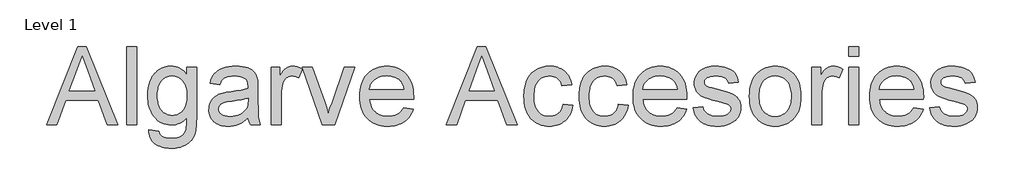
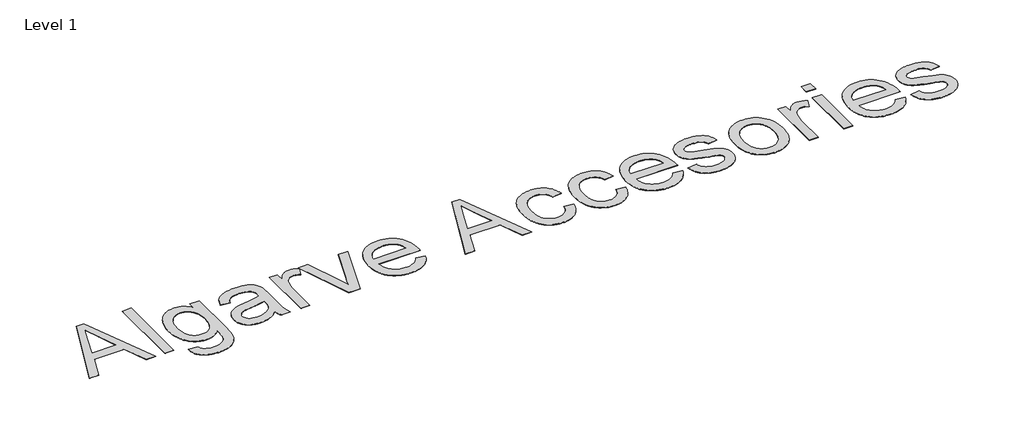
# One storey, part 47 of 47: 1 proxy.
"""IFC4 building model written with IfcOpenShell, lengths in millimetres."""

from ifc_helpers import new_model, si_unit, origin, origin_with_axes, place, context, project, spatial, polyline, outline, extrude, element, save

model = new_model("IFC4")

# Units and contexts
model_context = context("Model", 3, world=origin())
ifc_project = project(units=[si_unit("LENGTHUNIT", "METRE", prefix="MILLI")], contexts=[model_context])

# Site, building, storey
site = spatial("IfcSite", under=ifc_project)
building = spatial("IfcBuilding", under=site)
storey = spatial("IfcBuildingStorey", under=building, Name="Level 1", Elevation=0.0)

# Proxy
placement = place(None, origin())
element("IfcBuildingElementProxy", 1, Name="2500 mm Arial", ObjectType="2500 mm Arial", at=placement, inside=storey, context=model_context, shape_type="SweptSolid", body=[
    extrude(outline(polyline([(173410.7817272, 77108.8344652), (174413.2601641, 79620.2422189), (174680.5877473, 79620.2422189), (175683.0661841, 77108.8344652), (175351.3592518, 77108.8344652), (175063.7981589, 77893.6493882), (174029.4366158, 77893.6493882), (173742.4886596, 77108.8344652), (173410.7817272, 77108.8344652)]), holes=[polyline([(174144.7063076, 78207.5753575), (174949.1416037, 78207.5753575), (174722.8941767, 78825.0039727), (174546.9239557, 79306.3162497), (174390.5741077, 78878.9599987), (174144.7063076, 78207.5753575)])]), origin_with_axes(), (0.0, 0.0, 1.0), 5.0),
    extrude(outline(polyline([(175979.2111902, 77108.8344652), (175979.2111902, 79620.2422189), (176293.1371594, 79620.2422189), (176293.1371594, 77108.8344652), (175979.2111902, 77108.8344652)])), origin_with_axes(), (0.0, 0.0, 1.0), 5.0),
    extrude(outline(polyline([(176685.544621, 76951.8714806), (176999.4705902, 76912.6307344), (177012.7296704, 76859.7476976), (177034.1128114, 76814.5288691), (177063.6200131, 76776.9742487), (177101.2512755, 76747.0838366), (177162.1434099, 76716.5036458), (177233.2289413, 76694.6606523), (177314.5078696, 76681.5548562), (177405.9801949, 76677.1862575), (177504.0054182, 76682.1296718), (177590.2277608, 76696.9599148), (177628.9128518, 76708.082597), (177664.6472227, 76721.6769863), (177697.4308734, 76737.7430828), (177727.263804, 76756.2808865), (177779.38042, 76799.8135893), (177822.2999861, 76851.3170686), (177856.0225023, 76910.7913245), (177880.5479686, 76978.2363569), (177890.6264025, 77033.7635456), (177897.5625109, 77113.279706), (177901.356294, 77216.7848382), (177902.0077517, 77344.2789421), (177851.2898537, 77289.0966428), (177797.5445935, 77241.2719835), (177740.771971, 77200.804964), (177680.9719863, 77167.6955844), (177618.1446393, 77141.9438448), (177552.28993, 77123.549745), (177483.4078585, 77112.5132852), (177411.4984248, 77108.8344652), (177322.8666467, 77113.1168416), (177239.3794684, 77125.9639706), (177161.0368899, 77147.3758524), (177087.8389111, 77177.3524868), (177019.7855321, 77215.893874), (176956.8767529, 77263.0000138), (176899.1125735, 77318.6709064), (176846.4929939, 77382.9065516), (176799.5736691, 77453.1298595), (176758.9102543, 77526.7637401), (176724.5027494, 77603.8081934), (176696.3511546, 77684.2632193), (176674.4554697, 77768.1288179), (176658.8156948, 77855.4049892), (176649.4318298, 77946.0917331), (176646.3038748, 78040.1890497), (176651.9179073, 78169.465082), (176668.7600049, 78293.6444159), (176696.8301676, 78412.7270513), (176736.1283953, 78526.7129883), (176759.8395395, 78580.8462491), (176786.0607119, 78631.8084437), (176814.7919126, 78679.5995721), (176846.0331414, 78724.2196344), (176879.7843984, 78765.6686306), (176916.0456836, 78803.9465606), (176954.816997, 78839.0534244), (176996.0983386, 78870.9892221), (177039.5687696, 78899.4425952), (177084.9073515, 78924.1021852), (177132.114084, 78944.9679921), (177181.1889674, 78962.0400159), (177232.1320015, 78975.3182567), (177284.9431863, 78984.8027144), (177339.6225219, 78990.493389), (177396.1700083, 78992.3902805), (177471.2696687, 78988.0983239), (177542.977917, 78975.2224541), (177611.2947532, 78953.762671), (177676.2201771, 78923.7189747), (177737.754189, 78885.0913652), (177795.8967887, 78837.8798425), (177850.6479763, 78782.0844066), (177902.0077517, 78717.7050574), (177902.0077517, 78953.1495344), (178215.9337209, 78953.1495344), (178215.9337209, 77360.8336319), (178210.5687751, 77161.3151311), (178203.8625929, 77073.3252304), (178194.4739379, 76993.181563), (178182.4028099, 76920.8841287), (178167.649209, 76856.4329276), (178150.2131353, 76799.8279596), (178130.0945887, 76751.0692249), (178107.0684331, 76707.4071886), (178080.9095324, 76666.0923161), (178051.6178865, 76627.1246074), (178019.1934956, 76590.5040624), (177983.6363595, 76556.2306812), (177944.9464783, 76524.3044638), (177903.123852, 76494.7254102), (177858.1684806, 76467.4935203), (177810.30071, 76443.0638565), (177759.7408864, 76421.8914813), (177706.4890095, 76403.9763945), (177650.5450796, 76389.3185963), (177591.9090965, 76377.9180866), (177530.5810602, 76369.7748653), (177466.5609708, 76364.8889326), (177399.8488283, 76363.2602883), (177321.0080762, 76365.5547606), (177246.0473296, 76372.4381777), (177174.9665883, 76383.9105394), (177107.7658525, 76399.9718457), (177044.4451221, 76420.6220968), (176985.0043971, 76445.8612925), (176929.4436776, 76475.689433), (176877.7629634, 76510.1065181), (176831.2364293, 76549.1317083), (176791.1382499, 76592.7841644), (176757.4684251, 76641.0638861), (176730.226955, 76693.9708736), (176709.4138395, 76751.5051267), (176695.0290787, 76813.6666456), (176687.0726725, 76880.4554303), (176685.544621, 76951.8714806)]), holes=[polyline([(176960.229844, 78061.6488327), (176962.3231309, 77981.2273377), (176968.6029915, 77906.4294555), (176979.0694259, 77837.255186), (176993.722434, 77773.7045294), (177012.5620159, 77715.7774856), (177035.5881715, 77663.4740545), (177062.8009008, 77616.7942362), (177094.2002039, 77575.7380307), (177128.7609929, 77539.8839066), (177165.45818, 77508.8103324), (177204.2917651, 77482.517308), (177245.2617482, 77461.0048335), (177288.3681294, 77444.2729089), (177333.6109086, 77432.3215342), (177380.9900859, 77425.1507094), (177430.5056612, 77422.7604344), (177479.4751617, 77425.136339), (177526.4423878, 77432.2640526), (177571.4073394, 77444.1435754), (177614.3700167, 77460.7749073), (177655.3304196, 77482.1580482), (177694.2885481, 77508.2929983), (177731.2444021, 77539.1797575), (177766.1979818, 77574.8183258), (177798.0283966, 77615.5440123), (177825.6147561, 77661.6921261), (177848.9570603, 77713.2626672), (177868.0553092, 77770.2556357), (177882.9095028, 77832.6710315), (177893.5196411, 77900.5088546), (177899.885724, 77973.7691051), (177902.0077517, 78052.4517828), (177899.8234523, 78127.6328755), (177893.2705543, 78198.0525787), (177882.3490576, 78263.7108926), (177867.0589621, 78324.6078172), (177847.400268, 78380.7433524), (177823.3729752, 78432.1174982), (177794.9770837, 78478.7302546), (177762.2125935, 78520.5816217), (177726.3728398, 78557.5853771), (177688.7511576, 78589.6552984), (177649.347547, 78616.7913857), (177608.162008, 78638.9936389), (177565.1945406, 78656.2620581), (177520.4451448, 78668.5966432), (177473.9138206, 78675.9973943), (177425.6005679, 78678.4643113), (177378.0681065, 78676.0357153), (177332.3463143, 78668.7499274), (177288.4351912, 78656.6069474), (177246.3347374, 78639.6067755), (177206.0449527, 78617.7494117), (177167.5658373, 78591.0348559), (177130.897391, 78559.4631081), (177096.0396139, 78523.0341683), (177064.2091991, 78481.8246787), (177036.6228396, 78435.9112812), (177013.2805354, 78385.293976), (176994.1822865, 78329.9727629), (176979.3280929, 78269.9476421), (176968.7179547, 78205.2186134), (176962.3518717, 78135.785677), (176960.229844, 78061.6488327)])]), origin_with_axes(), (0.0, 0.0, 1.0), 5.0),
    extrude(outline(polyline([(179864.0450593, 77344.2789421), (179789.6064368, 77274.4196841), (179714.0565042, 77215.673528), (179637.3952613, 77168.0404738), (179559.6227083, 77131.5205216), (179479.8574611, 77104.4275455), (179397.2181358, 77085.0754197), (179311.7047325, 77073.4641442), (179223.317251, 77069.593719), (179151.2784838, 77071.9217223), (179083.5412534, 77078.9057321), (179020.1055599, 77090.5457483), (178960.9714032, 77106.8417711), (178906.1387834, 77127.7938003), (178855.6077005, 77153.4018361), (178809.3781545, 77183.6658783), (178767.4501453, 77218.5859271), (178730.1589822, 77257.1273142), (178697.8399741, 77298.2553717), (178670.4931211, 77341.9700994), (178648.1184232, 77388.2714974), (178630.7158803, 77437.1595656), (178618.2854926, 77488.6343042), (178610.82726, 77542.695713), (178608.3411824, 77599.3437921), (178612.0966445, 77665.9074406), (178623.3630306, 77729.4820479), (178642.1403407, 77790.067614), (178668.428575, 77847.6641388), (178700.8290153, 77901.0070281), (178737.9429436, 77948.8316875), (178779.7703601, 77991.138117), (178826.3112646, 78027.9263165), (178876.7225942, 78059.8860648), (178930.1612861, 78087.7071407), (178986.6273403, 78111.3895441), (179046.1207567, 78130.9332751), (179159.091186, 78154.998889), (179317.7402965, 78178.1447978), (179490.4149079, 78201.9038434), (179638.7173372, 78227.8088672), (179762.6475844, 78255.8598693), (179862.2056493, 78286.0568498), (179864.0450593, 78355.9544289), (179858.6417925, 78432.0600166), (179851.887709, 78465.5717671), (179842.4319921, 78496.0561553), (179830.2746418, 78523.5131813), (179815.4156581, 78547.9428451), (179797.8550409, 78569.3451466), (179777.5927904, 78587.7200858), (179746.6868707, 78608.9882637), (179712.2170942, 78627.4206845), (179674.1834608, 78643.0173482), (179632.5859707, 78655.7782549), (179587.4246237, 78665.7034046), (179538.6994198, 78672.7927972), (179430.5574416, 78678.4643113), (179330.0030296, 78674.6896887), (179243.5507608, 78663.3658211), (179171.200635, 78644.4927083), (179140.3138759, 78632.225185), (179112.9526525, 78618.0703504), (179088.1876796, 78601.5108705), (179065.0896721, 78582.0294112), (179023.8945528, 78534.3005544), (178989.3672947, 78474.8837801), (178961.5078978, 78403.7790882), (178647.5819286, 78443.0198344), (178671.4750977, 78533.4574915), (178702.0744491, 78614.6980988), (178739.3799827, 78686.7416562), (178783.3916985, 78749.5881637), (178836.006488, 78804.5022157), (178899.1212428, 78852.7484065), (178972.7359629, 78894.3267362), (179056.8506482, 78929.2372047), (179149.7600125, 78956.8666753), (179249.7587694, 78976.6020115), (179356.846919, 78988.4432133), (179471.0244611, 78992.3902805), (179582.6344935, 78988.9030658), (179683.2463871, 78978.4414215), (179772.8601418, 78961.0053478), (179851.4757578, 78936.5948446), (179919.7446926, 78906.9151982), (179978.318404, 78873.671695), (180027.1968921, 78836.8643349), (180066.3801566, 78796.4931181), (180098.1482998, 78751.5616973), (180124.7814234, 78701.0737256), (180146.2795275, 78645.0292029), (180162.642612, 78583.4281292), (180169.3487943, 78536.3698907), (180174.1389244, 78474.9029406), (180177.9710285, 78308.7429061), (180177.9710285, 77918.1748546), (180181.9564168, 77577.9606511), (180186.9381521, 77458.4948053), (180193.9125816, 77372.7897967), (180203.7994103, 77304.6741461), (180217.518343, 77237.9763739), (180235.0693798, 77172.6964803), (180256.4525208, 77108.8344652), (179942.5265516, 77108.8344652), (179914.6288336, 77161.2576495), (179892.2493456, 77217.9727904), (179875.3880875, 77278.979888), (179864.0450593, 77344.2789421)]), holes=[polyline([(179864.0450593, 77972.1308805), (179769.1621614, 77944.9612624), (179653.1260487, 77919.8609804), (179515.9367214, 77896.8300347), (179357.5941793, 77875.8684251), (179194.7297543, 77851.8028113), (179134.1633488, 77838.7353363), (179087.5074811, 77824.9780825), (179050.0869844, 77809.2281346), (179017.2266916, 77790.1825771), (178988.9266027, 77767.8414101), (178965.1867177, 77742.2046336), (178946.4094076, 77714.1919525), (178932.9970432, 77684.7230718), (178924.9496245, 77653.7979916), (178922.2671516, 77621.4167118), (178928.1111104, 77572.6340264), (178945.6429868, 77528.0666555), (178974.8627806, 77487.7145992), (179015.7704921, 77451.5778574), (179040.5115143, 77435.626724), (179067.9829107, 77421.8024084), (179131.116826, 77400.5342305), (179205.172238, 77387.7733238), (179290.1491468, 77383.5196883), (179376.907984, 77388.2140158), (179458.7617279, 77402.2969984), (179535.7103786, 77425.7686362), (179607.753936, 77458.6289289), (179672.7464218, 77498.1570829), (179728.5418577, 77541.6323041), (179775.1402438, 77589.0545926), (179812.54158, 77640.4239482), (179834.2696103, 77686.4091976), (179849.789632, 77742.2046336), (179859.101645, 77807.810256), (179862.2056493, 77883.226065), (179864.0450593, 77972.1308805)])]), origin_with_axes(), (0.0, 0.0, 1.0), 5.0),
    extrude(outline(polyline([(182239.3364748, 77108.8344652), (181590.63789, 78953.1495344), (181922.957959, 78953.1495344), (182315.9785571, 77848.2772755), (182377.7520755, 77665.8691196), (182434.3139323, 77476.7164604), (182484.1312858, 77637.3582649), (182550.1967607, 77827.4306291), (182945.6699056, 78953.1495344), (183277.9899745, 78953.1495344), (182637.2621663, 77108.8344652), (182239.3364748, 77108.8344652)])), origin_with_axes(), (0.0, 0.0, 1.0), 5.0),
    extrude(outline(polyline([(180609.6192362, 77108.8344652), (180609.6192362, 78953.1495344), (180884.3044593, 78953.1495344), (180884.3044593, 78680.3037213), (180936.0378648, 78767.522411), (180985.7785763, 78838.4929792), (181033.5265935, 78893.215426), (181079.2819167, 78931.6897513), (181125.1138819, 78958.2462328), (181173.0918255, 78977.2151482), (181223.2157473, 78988.5964974), (181275.4856475, 78992.3902805), (181353.3540031, 78986.335556), (181431.8354954, 78968.1713825), (181510.9301244, 78937.89776), (181590.63789, 78895.5146884), (181485.7915214, 78614.0849621), (181430.6092221, 78642.2509274), (181375.4269228, 78662.369474), (181320.2446235, 78674.440602), (181265.0623243, 78678.4643113), (181216.9502571, 78674.5938861), (181171.3290576, 78662.9826107), (181128.1987257, 78643.6304849), (181087.5592616, 78616.5375088), (181050.9435068, 78582.5850663), (181019.8843029, 78542.6545414), (180994.38165, 78496.7459341), (180974.4355481, 78444.8592444), (180952.1710232, 78359.1733963), (180936.2677911, 78269.50216), (180926.7258518, 78175.8455354), (180923.5452054, 78078.2035225), (180923.5452054, 77108.8344652), (180609.6192362, 77108.8344652)])), origin_with_axes(), (0.0, 0.0, 1.0), 5.0),
    extrude(outline(polyline([(184843.9410007, 77658.2049113), (185151.7356033, 77618.9641652), (185130.2039683, 77555.4949408), (185104.5432411, 77495.6853758), (185074.7534217, 77439.5354702), (185040.8345102, 77387.0452241), (185002.7865064, 77338.2146374), (184960.6094105, 77293.0437101), (184914.3032224, 77251.5324422), (184863.8679421, 77213.6808338), (184809.5526564, 77179.9104163), (184751.606452, 77150.6427211), (184690.029329, 77125.8777483), (184624.8212873, 77105.6154977), (184555.982327, 77089.8559696), (184483.512448, 77078.5991637), (184407.4116504, 77071.8450802), (184327.6799341, 77069.593719), (184227.6332759, 77073.4785146), (184132.8940819, 77085.1329012), (184043.4623521, 77104.556879), (183959.3380864, 77131.7504478), (183880.521285, 77166.7136077), (183807.0119478, 77209.4463588), (183738.8100748, 77259.9487009), (183675.915666, 77318.2206341), (183619.4400316, 77383.5053179), (183570.4944817, 77455.0459116), (183529.0790165, 77532.8424153), (183495.1936359, 77616.894829), (183468.8383398, 77707.2031526), (183450.0131283, 77803.7673862), (183438.7180014, 77906.5875298), (183434.9529591, 78015.6635833), (183438.7563225, 78128.4519877), (183450.1664125, 78234.7449756), (183469.1832292, 78334.5425471), (183495.8067725, 78427.8447021), (183530.0370425, 78514.6514406), (183571.8740392, 78594.9627626), (183621.3177626, 78668.7786681), (183678.3682126, 78736.0991572), (183741.4829674, 78796.1673892), (183809.1196051, 78848.2265236), (183881.2781256, 78892.2765605), (183957.958529, 78928.3174997), (184039.1608152, 78956.3493413), (184124.8849843, 78976.3720853), (184215.1310362, 78988.3857317), (184309.898971, 78992.3902805), (184401.5676916, 78988.395312), (184488.9540358, 78976.4104063), (184572.0580037, 78956.4355636), (184650.8795953, 78928.4707838), (184725.4188105, 78892.516067), (184795.6756493, 78848.571413), (184861.6501118, 78796.636822), (184923.342198, 78736.7122939), (184979.1711648, 78669.545089), (185027.5562694, 78595.8824676), (185068.4975118, 78515.7244297), (185101.9948919, 78429.0709754), (185128.0484097, 78335.9221046), (185146.6580653, 78236.2778173), (185157.8238587, 78130.1381135), (185161.5457898, 78017.5029933), (185159.7063799, 77932.8901344), (183748.8789284, 77932.8901344), (183755.7240243, 77868.3095998), (183767.0622624, 77807.6186508), (183782.8936425, 77750.8172876), (183803.2181647, 77697.90551), (183828.035829, 77648.8833181), (183857.3466354, 77603.7507118), (183891.1505838, 77562.5076913), (183929.4476743, 77525.1542564), (183971.2415598, 77491.9586545), (184015.5358933, 77463.1891328), (184062.3306747, 77438.8456914), (184111.625904, 77418.9283303), (184163.4215813, 77403.4370494), (184217.7177065, 77392.3718488), (184274.5142796, 77385.7327284), (184333.8113007, 77383.5196883), (184420.64678, 77387.6200397), (184500.8910402, 77399.9210939), (184574.5440813, 77420.4228509), (184641.6059033, 77449.1253107), (184702.0765063, 77486.7948942), (184755.9558902, 77534.1980221), (184803.244055, 77591.3346945), (184843.9410007, 77658.2049113)]), holes=[polyline([(183748.8789284, 78246.8161036), (184847.6198206, 78246.8161036), (184831.4866623, 78335.644277), (184819.5975593, 78375.6322835), (184805.160107, 78412.6695698), (184788.1743055, 78446.7561359), (184768.6401548, 78477.8919818), (184746.5576548, 78506.0771076), (184721.9268056, 78531.3115132), (184680.5975627, 78565.8004503), (184636.3175996, 78595.6908624), (184589.0869164, 78620.9827495), (184538.905513, 78641.6761118), (184485.7733894, 78657.7709491), (184429.6905457, 78669.2672614), (184370.6569818, 78676.1650488), (184308.6726977, 78678.4643113), (184252.335977, 78676.6296914), (184198.2889386, 78671.1258319), (184146.5315824, 78661.9527327), (184097.0639084, 78649.1103938), (184049.8859166, 78632.5988151), (184004.997607, 78612.4179968), (183962.3989796, 78588.5679388), (183922.0900344, 78561.0486412), (183885.1150198, 78530.4540799), (183852.5181842, 78497.3782313), (183824.2995275, 78461.8210952), (183800.4590498, 78423.7826717), (183780.996751, 78383.2629608), (183765.9126312, 78340.2619625), (183755.2066903, 78294.7796768), (183748.8789284, 78246.8161036)])]), origin_with_axes(), (0.0, 0.0, 1.0), 5.0),
    extrude(outline(polyline([(186203.2649728, 77108.8344652), (187205.7434097, 79620.2422189), (187473.0709929, 79620.2422189), (188475.5494297, 77108.8344652), (188143.8424974, 77108.8344652), (187856.2814045, 77893.6493882), (186821.9198614, 77893.6493882), (186534.9719052, 77108.8344652), (186203.2649728, 77108.8344652)]), holes=[polyline([(186937.1895532, 78207.5753575), (187741.6248493, 78207.5753575), (187515.3774223, 78825.0039727), (187339.4072013, 79306.3162497), (187183.0573533, 78878.9599987), (186937.1895532, 78207.5753575)])]), origin_with_axes(), (0.0, 0.0, 1.0), 5.0),
    extrude(outline(polyline([(189948.9168204, 77775.9271498), (190262.8427896, 77736.6864036), (190248.1754111, 77660.4898034), (190228.6987419, 77588.556419), (190204.4127821, 77520.8862505), (190175.3175316, 77457.4792977), (190141.4129904, 77398.3355608), (190102.6991586, 77343.4550397), (190059.1760361, 77292.8377345), (190010.8436229, 77246.4836451), (189958.6695254, 77205.0250687), (189903.6213498, 77169.0943024), (189845.699096, 77138.6913464), (189784.9027642, 77113.8162006), (189721.2323543, 77094.4688649), (189654.6878663, 77080.6493394), (189585.2693003, 77072.3576241), (189512.9766561, 77069.593719), (189422.6683325, 77073.4497738), (189336.9106325, 77085.0179381), (189255.7035561, 77104.298212), (189179.0471034, 77131.2905953), (189106.9412743, 77165.9950882), (189039.3860689, 77208.4116907), (188976.3814871, 77258.5404026), (188917.9275289, 77316.3812241), (188865.260048, 77381.4264014), (188819.6148978, 77453.1681806), (188780.9920785, 77531.6065617), (188749.3915899, 77616.7415448), (188724.8134321, 77708.5731298), (188707.2576051, 77807.1013168), (188696.7241089, 77912.3261057), (188693.2129435, 78024.2474965), (188699.2101865, 78168.5836981), (188706.7067402, 78237.259794), (188717.2019153, 78303.6078866), (188730.6957119, 78367.627976), (188747.18813, 78429.3200622), (188766.6791696, 78488.6841451), (188789.1688306, 78545.7202247), (188814.7289651, 78599.8439052), (188843.4314249, 78650.4707907), (188875.2762101, 78697.6008812), (188910.2633207, 78741.2341767), (188948.3927567, 78781.3706772), (188989.664518, 78818.0103827), (189034.0786047, 78851.1532932), (189081.6350168, 78880.7994086), (189131.294296, 78906.9535192), (189182.0169841, 78929.6204151), (189233.8030811, 78948.8000962), (189286.652587, 78964.4925625), (189340.5655018, 78976.6978141), (189395.5418255, 78985.415851), (189451.581558, 78990.6466731), (189508.6846995, 78992.3902805), (189579.9857867, 78989.9952154), (189647.9625236, 78982.8100202), (189712.6149102, 78970.8346949), (189773.9429465, 78954.0692393), (189831.9466324, 78932.5136537), (189886.625968, 78906.1679379), (189937.9809533, 78875.0320919), (189986.0115883, 78839.1061158), (190030.2963415, 78798.77322), (190070.4136814, 78754.4166149), (190106.3636082, 78706.0363004), (190138.1461217, 78653.6322766), (190165.761222, 78597.2045435), (190189.208909, 78536.7531011), (190208.4891829, 78472.2779493), (190223.6020435, 78403.7790882), (189909.6760743, 78364.5383421), (189885.1697684, 78437.8656543), (189852.7310071, 78501.4977432), (189812.3597902, 78555.4346086), (189764.0561178, 78599.6762507), (189709.0462632, 78634.1460272), (189648.5564998, 78658.7672961), (189582.5868274, 78673.5400575), (189511.1372461, 78678.4643113), (189456.4962316, 78676.0405054), (189404.4706281, 78668.7690879), (189355.0604356, 78656.6500586), (189308.2656542, 78639.6834176), (189264.0862839, 78617.8691649), (189222.5223246, 78591.2073006), (189183.5737764, 78559.6978245), (189147.2406393, 78523.3407367), (189114.4042971, 78481.7432465), (189085.9461339, 78434.5125632), (189061.8661497, 78381.648687), (189042.1643444, 78323.1516176), (189026.840718, 78259.0213552), (189015.8952707, 78189.2578998), (189009.3280022, 78113.8612513), (189007.1389128, 78032.8314098), (189009.2801009, 77950.5226035), (189015.7036655, 77874.0481757), (189026.4096063, 77803.4081264), (189041.3979236, 77738.6024557), (189060.6686171, 77679.6311635), (189084.2216871, 77626.4942498), (189112.0571333, 77579.1917146), (189144.174956, 77537.7235579), (189179.7512525, 77501.582026), (189217.9621207, 77470.2593649), (189258.8075605, 77443.7555748), (189302.2875718, 77422.0706557), (189348.4021547, 77405.2046074), (189397.1513092, 77393.1574301), (189448.5350353, 77385.9291237), (189502.5533329, 77383.5196883), (189587.4919207, 77389.5360917), (189627.21647, 77397.0565961), (189665.1111895, 77407.5853021), (189701.1760794, 77421.1222099), (189735.4111396, 77437.6673194), (189767.81637, 77457.2206307), (189798.3917707, 77479.7821437), (189826.6966497, 77505.4668215), (189852.2903151, 77534.3896273), (189875.1727668, 77566.5505611), (189895.3440049, 77601.9496229), (189912.8040292, 77640.5868127), (189927.55284, 77682.4621304), (189939.590437, 77727.5755761), (189948.9168204, 77775.9271498)])), origin_with_axes(), (0.0, 0.0, 1.0), 5.0),
    extrude(outline(polyline([(191714.7503973, 77775.9271498), (192028.6763665, 77736.6864036), (192014.008988, 77660.4898034), (191994.5323188, 77588.556419), (191970.246359, 77520.8862505), (191941.1511085, 77457.4792977), (191907.2465673, 77398.3355608), (191868.5327354, 77343.4550397), (191825.0096129, 77292.8377345), (191776.6771998, 77246.4836451), (191724.5031022, 77205.0250687), (191669.4549266, 77169.0943024), (191611.5326729, 77138.6913464), (191550.7363411, 77113.8162006), (191487.0659312, 77094.4688649), (191420.5214432, 77080.6493394), (191351.1028771, 77072.3576241), (191278.810233, 77069.593719), (191188.5019093, 77073.4497738), (191102.7442093, 77085.0179381), (191021.537133, 77104.298212), (190944.8806803, 77131.2905953), (190872.7748512, 77165.9950882), (190805.2196457, 77208.4116907), (190742.2150639, 77258.5404026), (190683.7611058, 77316.3812241), (190631.0936248, 77381.4264014), (190585.4484747, 77453.1681806), (190546.8256553, 77531.6065617), (190515.2251667, 77616.7415448), (190490.647009, 77708.5731298), (190473.091182, 77807.1013168), (190462.5576858, 77912.3261057), (190459.0465204, 78024.2474965), (190465.0437633, 78168.5836981), (190472.540317, 78237.259794), (190483.0354922, 78303.6078866), (190496.5292888, 78367.627976), (190513.0217069, 78429.3200622), (190532.5127464, 78488.6841451), (190555.0024075, 78545.7202247), (190580.5625419, 78599.8439052), (190609.2650018, 78650.4707907), (190641.109787, 78697.6008812), (190676.0968975, 78741.2341767), (190714.2263335, 78781.3706772), (190755.4980948, 78818.0103827), (190799.9121815, 78851.1532932), (190847.4685936, 78880.7994086), (190897.1278728, 78906.9535192), (190947.850561, 78929.6204151), (190999.636658, 78948.8000962), (191052.4861639, 78964.4925625), (191106.3990786, 78976.6978141), (191161.3754023, 78985.415851), (191217.4151349, 78990.6466731), (191274.5182764, 78992.3902805), (191345.8193636, 78989.9952154), (191413.7961005, 78982.8100202), (191478.448487, 78970.8346949), (191539.7765233, 78954.0692393), (191597.7802092, 78932.5136537), (191652.4595448, 78906.1679379), (191703.8145301, 78875.0320919), (191751.8451651, 78839.1061158), (191796.1299183, 78798.77322), (191836.2472583, 78754.4166149), (191872.197185, 78706.0363004), (191903.9796985, 78653.6322766), (191931.5947988, 78597.2045435), (191955.0424859, 78536.7531011), (191974.3227597, 78472.2779493), (191989.4356203, 78403.7790882), (191675.5096511, 78364.5383421), (191651.0033453, 78437.8656543), (191618.5645839, 78501.4977432), (191578.1933671, 78555.4346086), (191529.8896947, 78599.6762507), (191474.8798401, 78634.1460272), (191414.3900766, 78658.7672961), (191348.4204042, 78673.5400575), (191276.970823, 78678.4643113), (191222.3298084, 78676.0405054), (191170.3042049, 78668.7690879), (191120.8940125, 78656.6500586), (191074.0992311, 78639.6834176), (191029.9198607, 78617.8691649), (190988.3559015, 78591.2073006), (190949.4073533, 78559.6978245), (190913.0742161, 78523.3407367), (190880.237874, 78481.7432465), (190851.7797108, 78434.5125632), (190827.6997265, 78381.648687), (190807.9979212, 78323.1516176), (190792.6742949, 78259.0213552), (190781.7288475, 78189.2578998), (190775.1615791, 78113.8612513), (190772.9724896, 78032.8314098), (190775.1136778, 77950.5226035), (190781.5372423, 77874.0481757), (190792.2431832, 77803.4081264), (190807.2315004, 77738.6024557), (190826.502194, 77679.6311635), (190850.0552639, 77626.4942498), (190877.8907102, 77579.1917146), (190910.0085328, 77537.7235579), (190945.5848294, 77501.582026), (190983.7956976, 77470.2593649), (191024.6411373, 77443.7555748), (191068.1211487, 77422.0706557), (191114.2357316, 77405.2046074), (191162.9848861, 77393.1574301), (191214.3686121, 77385.9291237), (191268.3869098, 77383.5196883), (191353.3254975, 77389.5360917), (191393.0500468, 77397.0565961), (191430.9447664, 77407.5853021), (191467.0096563, 77421.1222099), (191501.2447164, 77437.6673194), (191533.6499468, 77457.2206307), (191564.2253476, 77479.7821437), (191592.5302266, 77505.4668215), (191618.123892, 77534.3896273), (191641.0063437, 77566.5505611), (191661.1775817, 77601.9496229), (191678.6376061, 77640.5868127), (191693.3864168, 77682.4621304), (191705.4240139, 77727.5755761), (191714.7503973, 77775.9271498)])), origin_with_axes(), (0.0, 0.0, 1.0), 5.0),
    extrude(outline(polyline([(193594.6273926, 77658.2049113), (193902.4219952, 77618.9641652), (193880.8903602, 77555.4949408), (193855.229633, 77495.6853758), (193825.4398137, 77439.5354702), (193791.5209021, 77387.0452241), (193753.4728984, 77338.2146374), (193711.2958024, 77293.0437101), (193664.9896143, 77251.5324422), (193614.554334, 77213.6808338), (193560.2390483, 77179.9104163), (193502.2928439, 77150.6427211), (193440.7157209, 77125.8777483), (193375.5076792, 77105.6154977), (193306.6687189, 77089.8559696), (193234.1988399, 77078.5991637), (193158.0980423, 77071.8450802), (193078.366326, 77069.593719), (192978.3196678, 77073.4785146), (192883.5804738, 77085.1329012), (192794.148744, 77104.556879), (192710.0244784, 77131.7504478), (192631.207677, 77166.7136077), (192557.6983397, 77209.4463588), (192489.4964667, 77259.9487009), (192426.6020579, 77318.2206341), (192370.1264235, 77383.5053179), (192321.1808737, 77455.0459116), (192279.7654084, 77532.8424153), (192245.8800278, 77616.894829), (192219.5247317, 77707.2031526), (192200.6995203, 77803.7673862), (192189.4043934, 77906.5875298), (192185.6393511, 78015.6635833), (192189.4427144, 78128.4519877), (192200.8528044, 78234.7449756), (192219.8696211, 78334.5425471), (192246.4931645, 78427.8447021), (192280.7234345, 78514.6514406), (192322.5604312, 78594.9627626), (192372.0041545, 78668.7786681), (192429.0546046, 78736.0991572), (192492.1693594, 78796.1673892), (192559.805997, 78848.2265236), (192631.9645175, 78892.2765605), (192708.6449209, 78928.3174997), (192789.8472071, 78956.3493413), (192875.5713762, 78976.3720853), (192965.8174281, 78988.3857317), (193060.5853629, 78992.3902805), (193152.2540835, 78988.395312), (193239.6404278, 78976.4104063), (193322.7443957, 78956.4355636), (193401.5659872, 78928.4707838), (193476.1052024, 78892.516067), (193546.3620413, 78848.571413), (193612.3365038, 78796.636822), (193674.0285899, 78736.7122939), (193729.8575567, 78669.545089), (193778.2426613, 78595.8824676), (193819.1839037, 78515.7244297), (193852.6812838, 78429.0709754), (193878.7348017, 78335.9221046), (193897.3444573, 78236.2778173), (193908.5102507, 78130.1381135), (193912.2321818, 78017.5029933), (193910.3927718, 77932.8901344), (192499.5653203, 77932.8901344), (192506.4104163, 77868.3095998), (192517.7486543, 77807.6186508), (192533.5800345, 77750.8172876), (192553.9045567, 77697.90551), (192578.722221, 77648.8833181), (192608.0330273, 77603.7507118), (192641.8369758, 77562.5076913), (192680.1340663, 77525.1542564), (192721.9279518, 77491.9586545), (192766.2222852, 77463.1891328), (192813.0170666, 77438.8456914), (192862.312296, 77418.9283303), (192914.1079732, 77403.4370494), (192968.4040984, 77392.3718488), (193025.2006716, 77385.7327284), (193084.4976926, 77383.5196883), (193171.3331719, 77387.6200397), (193251.5774321, 77399.9210939), (193325.2304732, 77420.4228509), (193392.2922953, 77449.1253107), (193452.7628982, 77486.7948942), (193506.6422821, 77534.1980221), (193553.9304469, 77591.3346945), (193594.6273926, 77658.2049113)]), holes=[polyline([(192499.5653203, 78246.8161036), (193598.3062126, 78246.8161036), (193582.1730542, 78335.644277), (193570.2839512, 78375.6322835), (193555.846499, 78412.6695698), (193538.8606975, 78446.7561359), (193519.3265467, 78477.8919818), (193497.2440468, 78506.0771076), (193472.6131975, 78531.3115132), (193431.2839546, 78565.8004503), (193387.0039916, 78595.6908624), (193339.7733083, 78620.9827495), (193289.5919049, 78641.6761118), (193236.4597814, 78657.7709491), (193180.3769376, 78669.2672614), (193121.3433737, 78676.1650488), (193059.3590896, 78678.4643113), (193003.022369, 78676.6296914), (192948.9753306, 78671.1258319), (192897.2179743, 78661.9527327), (192847.7503003, 78649.1103938), (192800.5723085, 78632.5988151), (192755.6839989, 78612.4179968), (192713.0853715, 78588.5679388), (192672.7764264, 78561.0486412), (192635.8014118, 78530.4540799), (192603.2045761, 78497.3782313), (192574.9859194, 78461.8210952), (192551.1454417, 78423.7826717), (192531.6831429, 78383.2629608), (192516.5990231, 78340.2619625), (192505.8930822, 78294.7796768), (192499.5653203, 78246.8161036)])]), origin_with_axes(), (0.0, 0.0, 1.0), 5.0),
    extrude(outline(polyline([(194108.4359125, 77658.2049113), (194422.3618818, 77697.4456575), (194430.3997201, 77660.5424948), (194441.3307971, 77625.8619526), (194455.1551127, 77593.4040307), (194471.8726669, 77563.1687292), (194491.4834598, 77535.1560482), (194513.9874912, 77509.3659875), (194539.3847612, 77485.7985471), (194567.6752699, 77464.4537272), (194598.8973381, 77445.4848118), (194633.0892871, 77429.0450852), (194670.2511168, 77415.1345472), (194710.3828271, 77403.753198), (194799.5558899, 77388.5780657), (194900.6084755, 77383.5196883), (195001.5460979, 77388.1565342), (195088.5348614, 77402.0670722), (195126.798421, 77412.4999756), (195161.5747658, 77425.2513021), (195192.8638959, 77440.3210515), (195220.6658113, 77457.709224), (195266.2678503, 77496.4134755), (195298.8407353, 77538.3366946), (195310.241245, 77560.5054169), (195318.3844663, 77583.4788811), (195323.270399, 77607.2570871), (195324.8990433, 77631.840035), (195323.2608187, 77653.6255469), (195318.3461452, 77674.2231065), (195310.1550227, 77693.6327139), (195298.6874511, 77711.854369), (195265.9229609, 77744.7338223), (195220.0526746, 77772.8614665), (195172.2663363, 77791.5621346), (195102.4837203, 77812.7153493), (194896.9296555, 77862.3794187), (194741.1546232, 77905.3181453), (194610.4415518, 77945.2295097), (194504.7904413, 77982.1135118), (194424.2012917, 78015.9701516), (194360.2626346, 78051.4362752), (194304.5630012, 78093.1487285), (194257.1023917, 78141.1075116), (194217.8808061, 78195.3126243), (194187.1664916, 78254.1354225), (194165.2276955, 78315.9472619), (194152.0644179, 78380.7481425), (194147.6766587, 78448.5380643), (194151.2021945, 78510.5223484), (194161.7788018, 78570.169049), (194179.4064808, 78627.478166), (194204.0852313, 78682.4496996), (194234.8570273, 78733.9723394), (194270.7638429, 78780.9347754), (194311.805678, 78823.3370074), (194357.9825326, 78861.1790356), (194398.0471811, 78887.4481093), (194444.6647277, 78911.6861678), (194497.8351723, 78933.8932112), (194557.558515, 78954.0692393), (194621.6887774, 78970.8346949), (194688.0799812, 78982.8100202), (194756.7321264, 78989.9952154), (194827.6452131, 78992.3902805), (194933.1430394, 78988.5390159), (195031.9730046, 78976.985222), (195124.1351086, 78957.7288988), (195209.6293514, 78930.7700463), (195286.4247179, 78897.2391353), (195352.4901929, 78858.2666364), (195407.8257763, 78813.8525497), (195452.4314683, 78763.9968752), (195488.6065311, 78706.9560054), (195518.6502274, 78640.986333), (195542.5625571, 78566.0878581), (195560.3435202, 78482.2605805), (195246.417551, 78443.0198344), (195231.4531844, 78495.4621792), (195206.7935944, 78541.8114785), (195172.438781, 78582.0677322), (195128.3887442, 78616.2309404), (195074.4518787, 78643.4580402), (195010.4365795, 78662.9059686), (194936.3428464, 78674.5747256), (194852.1706795, 78678.4643113), (194754.5286666, 78674.7471703), (194671.9085018, 78663.5957473), (194604.3101852, 78645.0100424), (194576.14422, 78632.9293341), (194551.7337167, 78618.9900554), (194512.3013654, 78588.0266541), (194484.1354001, 78554.6107062), (194467.235821, 78518.7422117), (194461.6026279, 78480.4211706), (194463.9402114, 78455.6274569), (194470.952962, 78432.1366587), (194482.6408795, 78409.9487759), (194499.0039641, 78389.0638084), (194520.348784, 78368.8686197), (194546.9819076, 78350.5894831), (194578.9033349, 78334.2263985), (194616.1130659, 78319.779366), (194706.7040072, 78295.7137521), (194886.5063323, 78252.9474702), (195163.8740283, 78170.9404421), (195267.3216789, 78136.0299736), (195347.2785313, 78105.1815355), (195411.8111646, 78073.106824), (195468.986158, 78034.5175356), (195518.8035115, 77989.4136701), (195561.2632252, 77937.7952277), (195595.1965071, 77879.5855661), (195619.4345656, 77814.7080434), (195633.9774008, 77743.1626596), (195638.8250125, 77664.9494146), (195633.1343379, 77586.3912802), (195616.062314, 77510.1324083), (195587.608941, 77436.1727988), (195547.7742187, 77364.5124518), (195523.751716, 77330.2582312), (195497.2096049, 77298.0062849), (195468.1478853, 77267.756613), (195436.5665572, 77239.5092156), (195365.8450757, 77189.0212438), (195285.0451604, 77146.5423697), (195196.3702712, 77112.877335), (195102.0238678, 77088.8308817), (195002.0059504, 77074.4030097), (194896.3165189, 77069.593719), (194809.164891, 77071.912142), (194727.3590484, 77078.867411), (194650.898991, 77090.459526), (194579.7847189, 77106.6884869), (194514.016232, 77127.5542938), (194453.5935303, 77153.0569467), (194398.5166139, 77183.1964456), (194348.7854827, 77217.9727904), (194303.854062, 77257.3093392), (194263.1762768, 77301.1294498), (194226.7521271, 77349.4331222), (194194.5816131, 77402.2203564), (194166.6647346, 77459.4911524), (194143.0014917, 77521.2455102), (194123.5918843, 77587.4834299), (194108.4359125, 77658.2049113)])), origin_with_axes(), (0.0, 0.0, 1.0), 5.0),
    extrude(outline(polyline([(195913.5102355, 78030.9919998), (195917.7542909, 78154.5486168), (195930.4864568, 78269.8470494), (195951.7067333, 78376.8872976), (195981.4151205, 78475.6693614), (196019.6116183, 78566.1932409), (196066.2962267, 78648.4589361), (196121.4689457, 78722.4664468), (196185.1297753, 78788.2157732), (196243.3969184, 78836.0691733), (196304.7680658, 78877.5421201), (196369.2432176, 78912.6346136), (196436.8223737, 78941.3466537), (196507.5055341, 78963.6782404), (196581.2926989, 78979.6293738), (196658.183868, 78989.2000538), (196738.1790414, 78992.3902805), (196826.8491405, 78988.505485), (196911.3709869, 78976.8510983), (196991.7445806, 78957.4271206), (197067.9699217, 78930.2335517), (197140.04701, 78895.2703918), (197207.9758455, 78852.5376408), (197271.7564284, 78802.0352987), (197331.3887586, 78743.7633654), (197385.3495747, 78678.6415461), (197432.1156153, 78607.5895457), (197471.6868805, 78530.6073641), (197504.0633701, 78447.6950014), (197529.2450843, 78358.8524576), (197547.232023, 78264.0797327), (197558.0241862, 78163.3768266), (197561.6215739, 78056.7437394), (197560.0312507, 77970.3585324), (197555.2602811, 77888.7059739), (197547.3086651, 77811.7860641), (197536.1764026, 77739.5988028), (197521.8634937, 77672.1441901), (197504.3699384, 77609.4222259), (197483.6957367, 77551.4329104), (197459.8408886, 77498.1762434), (197432.9443078, 77448.7085694), (197403.1449082, 77402.0862327), (197370.4426897, 77358.3092333), (197334.8376523, 77317.3775712), (197296.3297961, 77279.2912464), (197254.919121, 77244.0502589), (197210.605627, 77211.6546088), (197163.3893142, 77182.1042959), (197114.1611466, 77155.7346295), (197063.8120887, 77132.8809185), (197012.3421403, 77113.5431631), (196959.7513014, 77097.7213633), (196906.0395721, 77085.4155189), (196851.2069523, 77076.6256301), (196795.2534421, 77071.3516968), (196738.1790414, 77069.593719), (196648.1102243, 77073.4641442), (196562.4579071, 77085.0754197), (196481.22209, 77104.4275455), (196404.4027729, 77131.5205216), (196331.9999557, 77166.354348), (196264.0136386, 77208.9290247), (196200.4438214, 77259.2445518), (196141.2905042, 77317.3009291), (196087.9045037, 77382.6383043), (196041.6366367, 77454.7968248), (196002.486903, 77533.7764907), (195970.4553027, 77619.5773018), (195945.5418358, 77712.1992583), (195927.7465023, 77811.6423602), (195917.0693022, 77917.9066073), (195913.5102355, 78030.9919998)]), holes=[polyline([(196227.4362048, 78031.6051364), (196229.7067264, 77952.9176685), (196236.5182915, 77879.3364794), (196247.8709, 77810.8615689), (196263.7645518, 77747.4929372), (196284.199247, 77689.2305843), (196309.1749856, 77636.0745101), (196338.6917675, 77588.0247146), (196372.7495929, 77545.0811978), (196410.2467316, 77507.215219), (196450.0814539, 77474.3980374), (196492.2537597, 77446.6296529), (196536.763649, 77423.9100657), (196583.6111219, 77406.2392755), (196632.7961782, 77393.6172826), (196684.318818, 77386.0440869), (196738.1790414, 77383.5196883), (196791.7518569, 77386.0584572), (196843.02541, 77393.6747642), (196891.9997006, 77406.3686091), (196938.6747288, 77424.1399919), (196983.0504944, 77446.9889127), (197025.1269976, 77474.9153714), (197064.9042384, 77507.9193681), (197102.3822166, 77546.0009028), (197136.440042, 77589.2845188), (197165.9568239, 77637.8947595), (197190.9325625, 77691.831625), (197211.3672577, 77751.0951151), (197227.2609095, 77815.68523), (197238.613518, 77885.6019696), (197245.425083, 77960.8453339), (197247.6956047, 78041.415323), (197245.4107126, 78117.5161206), (197238.5560364, 78188.8555289), (197227.131576, 78255.4335477), (197211.1373314, 78317.2501773), (197190.5733027, 78374.3054174), (197165.4394899, 78426.5992682), (197135.7358928, 78474.1317297), (197101.4625116, 78516.9028017), (197063.7977183, 78554.7687805), (197023.9198848, 78587.5859622), (196981.8290112, 78615.3543466), (196937.5250975, 78638.0739339), (196891.0081437, 78655.744724), (196842.2781497, 78668.3667169), (196791.3351156, 78675.9399127), (196738.1790414, 78678.4643113), (196684.318818, 78675.949493), (196632.7961782, 78668.405038), (196583.6111219, 78655.8309464), (196536.763649, 78638.2272181), (196492.2537597, 78615.5938531), (196450.0814539, 78587.9308515), (196410.2467316, 78555.2382133), (196372.7495929, 78517.5159384), (196338.6917675, 78474.7161255), (196309.1749856, 78426.7908734), (196284.199247, 78373.7401821), (196263.7645518, 78315.5640515), (196247.8709, 78252.2624816), (196236.5182915, 78183.8354725), (196229.7067264, 78110.2830241), (196227.4362048, 78031.6051364)])]), origin_with_axes(), (0.0, 0.0, 1.0), 5.0),
    extrude(outline(polyline([(197914.7882893, 77108.8344652), (197914.7882893, 78953.1495344), (198189.4735124, 78953.1495344), (198189.4735124, 78680.3037213), (198241.2069179, 78767.522411), (198290.9476294, 78838.4929792), (198338.6956467, 78893.215426), (198384.4509698, 78931.6897513), (198430.282935, 78958.2462328), (198478.2608786, 78977.2151482), (198528.3848004, 78988.5964974), (198580.6547006, 78992.3902805), (198658.5230562, 78986.335556), (198737.0045485, 78968.1713825), (198816.0991775, 78937.89776), (198895.8069431, 78895.5146884), (198790.9605745, 78614.0849621), (198735.7782752, 78642.2509274), (198680.5959759, 78662.369474), (198625.4136767, 78674.440602), (198570.2313774, 78678.4643113), (198522.1193102, 78674.5938861), (198476.4981107, 78662.9826107), (198433.3677789, 78643.6304849), (198392.7283147, 78616.5375088), (198356.1125599, 78582.5850663), (198325.053356, 78542.6545414), (198299.5507031, 78496.7459341), (198279.6046012, 78444.8592444), (198257.3400763, 78359.1733963), (198241.4368442, 78269.50216), (198231.8949049, 78175.8455354), (198228.7142585, 78078.2035225), (198228.7142585, 77108.8344652), (197914.7882893, 77108.8344652)])), origin_with_axes(), (0.0, 0.0, 1.0), 5.0),
    extrude(outline(polyline([(199092.0106739, 79306.3162497), (199092.0106739, 79620.2422189), (199405.9366431, 79620.2422189), (199405.9366431, 79306.3162497), (199092.0106739, 79306.3162497)])), origin_with_axes(), (0.0, 0.0, 1.0), 5.0),
    extrude(outline(polyline([(199092.0106739, 77108.8344652), (199092.0106739, 78953.1495344), (199405.9366431, 78953.1495344), (199405.9366431, 77108.8344652), (199092.0106739, 77108.8344652)])), origin_with_axes(), (0.0, 0.0, 1.0), 5.0),
    extrude(outline(polyline([(201168.0914, 77658.2049113), (201475.8860026, 77618.9641652), (201454.3543676, 77555.4949408), (201428.6936404, 77495.6853758), (201398.903821, 77439.5354702), (201364.9849095, 77387.0452241), (201326.9369057, 77338.2146374), (201284.7598098, 77293.0437101), (201238.4536217, 77251.5324422), (201188.0183414, 77213.6808338), (201133.7030557, 77179.9104163), (201075.7568513, 77150.6427211), (201014.1797283, 77125.8777483), (200948.9716866, 77105.6154977), (200880.1327263, 77089.8559696), (200807.6628473, 77078.5991637), (200731.5620497, 77071.8450802), (200651.8303334, 77069.593719), (200551.7836752, 77073.4785146), (200457.0444812, 77085.1329012), (200367.6127514, 77104.556879), (200283.4884857, 77131.7504478), (200204.6716843, 77166.7136077), (200131.1623471, 77209.4463588), (200062.9604741, 77259.9487009), (200000.0660653, 77318.2206341), (199943.5904309, 77383.5053179), (199894.6448811, 77455.0459116), (199853.2294158, 77532.8424153), (199819.3440352, 77616.894829), (199792.9887391, 77707.2031526), (199774.1635276, 77803.7673862), (199762.8684008, 77906.5875298), (199759.1033585, 78015.6635833), (199762.9067218, 78128.4519877), (199774.3168118, 78234.7449756), (199793.3336285, 78334.5425471), (199819.9571718, 78427.8447021), (199854.1874418, 78514.6514406), (199896.0244385, 78594.9627626), (199945.4681619, 78668.7786681), (200002.5186119, 78736.0991572), (200065.6333667, 78796.1673892), (200133.2700044, 78848.2265236), (200205.4285249, 78892.2765605), (200282.1089283, 78928.3174997), (200363.3112145, 78956.3493413), (200449.0353836, 78976.3720853), (200539.2814355, 78988.3857317), (200634.0493703, 78992.3902805), (200725.7180909, 78988.395312), (200813.1044352, 78976.4104063), (200896.2084031, 78956.4355636), (200975.0299946, 78928.4707838), (201049.5692098, 78892.516067), (201119.8260486, 78848.571413), (201185.8005111, 78796.636822), (201247.4925973, 78736.7122939), (201303.3215641, 78669.545089), (201351.7066687, 78595.8824676), (201392.6479111, 78515.7244297), (201426.1452912, 78429.0709754), (201452.198809, 78335.9221046), (201470.8084647, 78236.2778173), (201481.974258, 78130.1381135), (201485.6961892, 78017.5029933), (201483.8567792, 77932.8901344), (200073.0293277, 77932.8901344), (200079.8744237, 77868.3095998), (200091.2126617, 77807.6186508), (200107.0440418, 77750.8172876), (200127.368564, 77697.90551), (200152.1862283, 77648.8833181), (200181.4970347, 77603.7507118), (200215.3009831, 77562.5076913), (200253.5980736, 77525.1542564), (200295.3919592, 77491.9586545), (200339.6862926, 77463.1891328), (200386.481074, 77438.8456914), (200435.7763033, 77418.9283303), (200487.5719806, 77403.4370494), (200541.8681058, 77392.3718488), (200598.6646789, 77385.7327284), (200657.9617, 77383.5196883), (200744.7971793, 77387.6200397), (200825.0414395, 77399.9210939), (200898.6944806, 77420.4228509), (200965.7563026, 77449.1253107), (201026.2269056, 77486.7948942), (201080.1062895, 77534.1980221), (201127.3944543, 77591.3346945), (201168.0914, 77658.2049113)]), holes=[polyline([(200073.0293277, 78246.8161036), (201171.7702199, 78246.8161036), (201155.6370616, 78335.644277), (201143.7479586, 78375.6322835), (201129.3105063, 78412.6695698), (201112.3247048, 78446.7561359), (201092.7905541, 78477.8919818), (201070.7080541, 78506.0771076), (201046.0772049, 78531.3115132), (201004.747962, 78565.8004503), (200960.467999, 78595.6908624), (200913.2373157, 78620.9827495), (200863.0559123, 78641.6761118), (200809.9237887, 78657.7709491), (200753.840945, 78669.2672614), (200694.8073811, 78676.1650488), (200632.823097, 78678.4643113), (200576.4863764, 78676.6296914), (200522.4393379, 78671.1258319), (200470.6819817, 78661.9527327), (200421.2143077, 78649.1103938), (200374.0363159, 78632.5988151), (200329.1480063, 78612.4179968), (200286.5493789, 78588.5679388), (200246.2404337, 78561.0486412), (200209.2654191, 78530.4540799), (200176.6685835, 78497.3782313), (200148.4499268, 78461.8210952), (200124.6094491, 78423.7826717), (200105.1471503, 78383.2629608), (200090.0630305, 78340.2619625), (200079.3570896, 78294.7796768), (200073.0293277, 78246.8161036)])]), origin_with_axes(), (0.0, 0.0, 1.0), 5.0),
    extrude(outline(polyline([(201681.8999199, 77658.2049113), (201995.8258891, 77697.4456575), (202003.8637275, 77660.5424948), (202014.7948045, 77625.8619526), (202028.6191201, 77593.4040307), (202045.3366743, 77563.1687292), (202064.9474671, 77535.1560482), (202087.4514986, 77509.3659875), (202112.8487686, 77485.7985471), (202141.1392772, 77464.4537272), (202172.3613455, 77445.4848118), (202206.5532945, 77429.0450852), (202243.7151242, 77415.1345472), (202283.8468345, 77403.753198), (202373.0198973, 77388.5780657), (202474.0724829, 77383.5196883), (202575.0101053, 77388.1565342), (202661.9988687, 77402.0670722), (202700.2624283, 77412.4999756), (202735.0387732, 77425.2513021), (202766.3279033, 77440.3210515), (202794.1298187, 77457.709224), (202839.7318577, 77496.4134755), (202872.3047426, 77538.3366946), (202883.7052524, 77560.5054169), (202891.8484736, 77583.4788811), (202896.7344064, 77607.2570871), (202898.3630506, 77631.840035), (202896.7248261, 77653.6255469), (202891.8101526, 77674.2231065), (202883.61903, 77693.6327139), (202872.1514585, 77711.854369), (202839.3869683, 77744.7338223), (202793.516682, 77772.8614665), (202745.7303437, 77791.5621346), (202675.9477277, 77812.7153493), (202470.3936629, 77862.3794187), (202314.6186306, 77905.3181453), (202183.9055592, 77945.2295097), (202078.2544487, 77982.1135118), (201997.6652991, 78015.9701516), (201933.7266419, 78051.4362752), (201878.0270086, 78093.1487285), (201830.5663991, 78141.1075116), (201791.3448135, 78195.3126243), (201760.630499, 78254.1354225), (201738.6917029, 78315.9472619), (201725.5284253, 78380.7481425), (201721.1406661, 78448.5380643), (201724.6662019, 78510.5223484), (201735.2428092, 78570.169049), (201752.8704881, 78627.478166), (201777.5492387, 78682.4496996), (201808.3210347, 78733.9723394), (201844.2278503, 78780.9347754), (201885.2696854, 78823.3370074), (201931.44654, 78861.1790356), (201971.5111885, 78887.4481093), (202018.1287351, 78911.6861678), (202071.2991797, 78933.8932112), (202131.0225224, 78954.0692393), (202195.1527847, 78970.8346949), (202261.5439886, 78982.8100202), (202330.1961338, 78989.9952154), (202401.1092205, 78992.3902805), (202506.6070468, 78988.5390159), (202605.437012, 78976.985222), (202697.599116, 78957.7288988), (202783.0933588, 78930.7700463), (202859.8887253, 78897.2391353), (202925.9542003, 78858.2666364), (202981.2897837, 78813.8525497), (203025.8954756, 78763.9968752), (203062.0705385, 78706.9560054), (203092.1142348, 78640.986333), (203116.0265644, 78566.0878581), (203133.8075275, 78482.2605805), (202819.8815583, 78443.0198344), (202804.9171918, 78495.4621792), (202780.2576018, 78541.8114785), (202745.9027884, 78582.0677322), (202701.8527515, 78616.2309404), (202647.9158861, 78643.4580402), (202583.9005868, 78662.9059686), (202509.8068537, 78674.5747256), (202425.6346868, 78678.4643113), (202327.9926739, 78674.7471703), (202245.3725092, 78663.5957473), (202177.7741926, 78645.0100424), (202149.6082273, 78632.9293341), (202125.1977241, 78618.9900554), (202085.7653727, 78588.0266541), (202057.5994075, 78554.6107062), (202040.6998283, 78518.7422117), (202035.0666353, 78480.4211706), (202037.4042188, 78455.6274569), (202044.4169693, 78432.1366587), (202056.1048869, 78409.9487759), (202072.4679715, 78389.0638084), (202093.8127914, 78368.8686197), (202120.445915, 78350.5894831), (202152.3673423, 78334.2263985), (202189.5770733, 78319.779366), (202280.1680146, 78295.7137521), (202459.9703397, 78252.9474702), (202737.3380357, 78170.9404421), (202840.7856863, 78136.0299736), (202920.7425387, 78105.1815355), (202985.275172, 78073.106824), (203042.4501654, 78034.5175356), (203092.2675189, 77989.4136701), (203134.7272325, 77937.7952277), (203168.6605145, 77879.5855661), (203192.898573, 77814.7080434), (203207.4414081, 77743.1626596), (203212.2890198, 77664.9494146), (203206.5983452, 77586.3912802), (203189.5263214, 77510.1324083), (203161.0729483, 77436.1727988), (203121.238226, 77364.5124518), (203097.2157234, 77330.2582312), (203070.6736122, 77298.0062849), (203041.6118926, 77267.756613), (203010.0305646, 77239.5092156), (202939.3090831, 77189.0212438), (202858.5091678, 77146.5423697), (202769.8342786, 77112.877335), (202675.4878752, 77088.8308817), (202575.4699578, 77074.4030097), (202469.7805263, 77069.593719), (202382.6288984, 77071.912142), (202300.8230558, 77078.867411), (202224.3629984, 77090.459526), (202153.2487262, 77106.6884869), (202087.4802393, 77127.5542938), (202027.0575377, 77153.0569467), (201971.9806213, 77183.1964456), (201922.2494901, 77217.9727904), (201877.3180693, 77257.3093392), (201836.6402841, 77301.1294498), (201800.2161345, 77349.4331222), (201768.0456205, 77402.2203564), (201740.128742, 77459.4911524), (201716.465499, 77521.2455102), (201697.0558917, 77587.4834299), (201681.8999199, 77658.2049113)])), origin_with_axes(), (0.0, 0.0, 1.0), 5.0),
])

save(model, "model.ifc")
